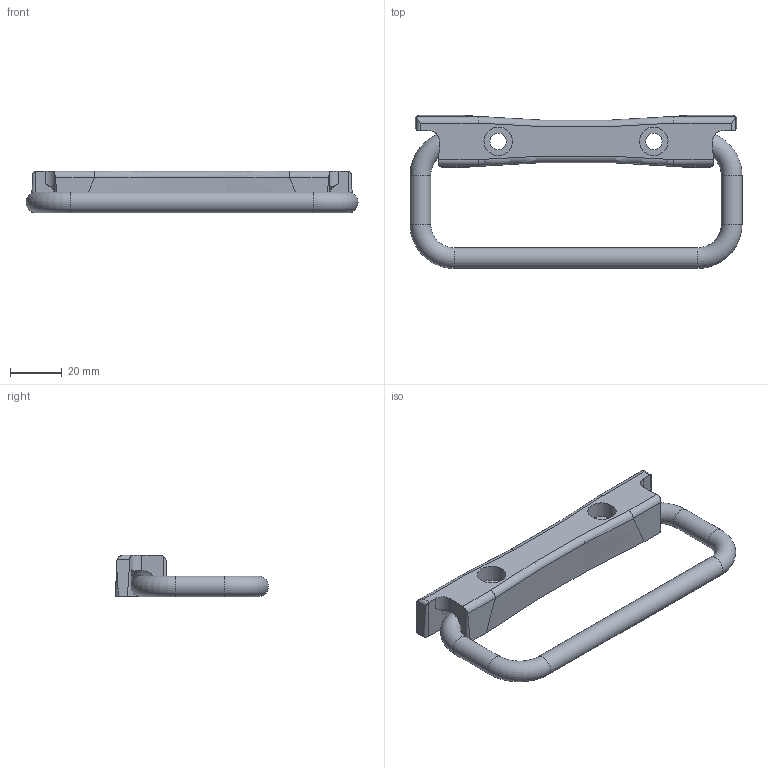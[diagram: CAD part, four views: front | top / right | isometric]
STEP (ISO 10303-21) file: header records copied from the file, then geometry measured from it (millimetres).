
FILE_DESCRIPTION( ( 'STEP AP203' ), '1' );
FILE_NAME( 'C:/Temp/Ganter_Step_05_03_2020/data/1_2/gn425_9/Stainless Steel-Folding handle GN 425.9-120-NI-B-1-GS (deactivated).stp', '2020-03-05T10:14:47', ( 'License CC BY-ND 4.0' ), ( 'CADENAS' ), ' ', 'PARTsolutions', ' ' );
FILE_SCHEMA( ( 'CONFIG_CONTROL_DESIGN' ) );
Length unit declared in the file: millimetre
Products named in the file (3): Stainless Steel-Folding handle GN 425.9-120-NI-B-1-GS (deactivated); _Edelstahl-Klappgriff GN 425.9-120-NI-B-1-GS (zugeklappt)-1; _Edelstahl-Klappgriff GN 425.9-120-NI-B-1-GS (unbetaetigt)-2
Assembly tree (2 placements, depth 2):
  Stainless Steel-Folding handle GN 425.9-120-NI-B-1-GS (deactivated)
    _Edelstahl-Klappgriff GN 425.9-120-NI-B-1-GS (zugeklappt)-1
    _Edelstahl-Klappgriff GN 425.9-120-NI-B-1-GS (unbetaetigt)-2
Bounding box: 128 x 59 x 16 mm (x, y, z)
Volume: 38762.3 mm3; surface area: 15502.3 mm2
Topology: 2 solids, 2 shells, 67 faces, 174 edges, 113 vertices
Faces by surface type: plane 30, cylinder 27, torus 10
Full cylindrical faces by diameter (mm): 6.4 x2, 8 x5, 11 x2
Entity records: 2353 total; most frequent: CARTESIAN_POINT 653, DIRECTION 332, ORIENTED_EDGE 320, EDGE_CURVE 160, AXIS2_PLACEMENT_3D 130, VERTEX_POINT 112, EDGE_LOOP 86, FACE_OUTER_BOUND 80
